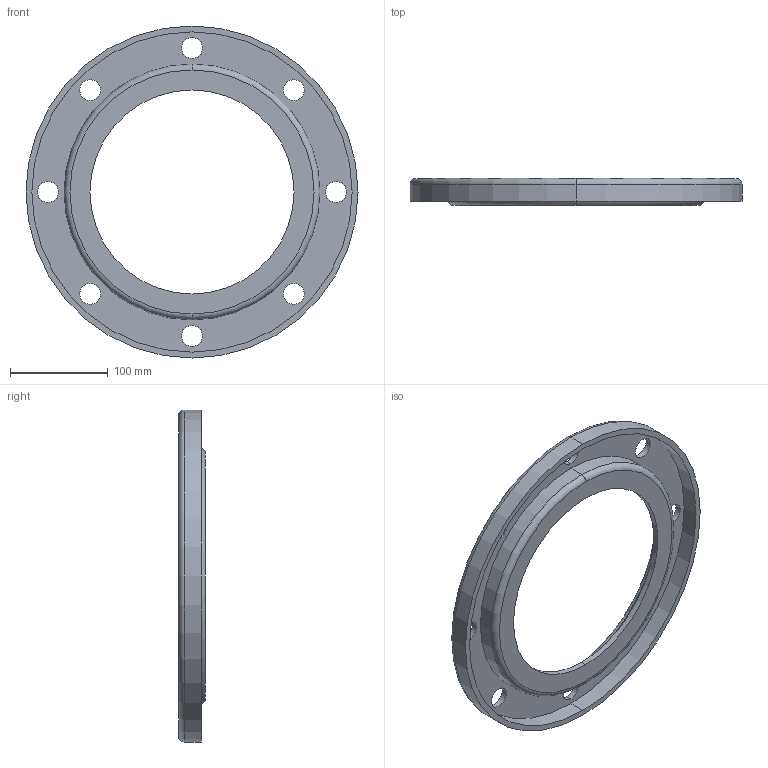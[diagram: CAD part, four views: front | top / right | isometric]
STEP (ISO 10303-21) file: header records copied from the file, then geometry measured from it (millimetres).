
FILE_DESCRIPTION (( 'STEP AP203' ), '1' );
FILE_NAME ('3D_R350_PN10_DN204_17677305.STEP', '2024-07-04T09:39:29', ( '' ), ( '' ), 'SwSTEP 2.0', 'SolidWorks 2024', '' );
FILE_SCHEMA (( 'CONFIG_CONTROL_DESIGN' ));
Length unit declared in the file: millimetre
Products named in the file (1): 3D_R350_PN10_DN204_17677305
Bounding box: 340 x 27.5 x 340 mm (x, y, z)
Volume: 513752.8 mm3; surface area: 184803.8 mm2
Topology: 1 solids, 1 shells, 37 faces, 90 edges, 58 vertices
Faces by surface type: cylinder 26, torus 6, plane 5
Entity records: 1233 total; most frequent: DIRECTION 230, CARTESIAN_POINT 186, ORIENTED_EDGE 180, AXIS2_PLACEMENT_3D 102, EDGE_CURVE 90, CIRCLE 64, VERTEX_POINT 58, EDGE_LOOP 58
